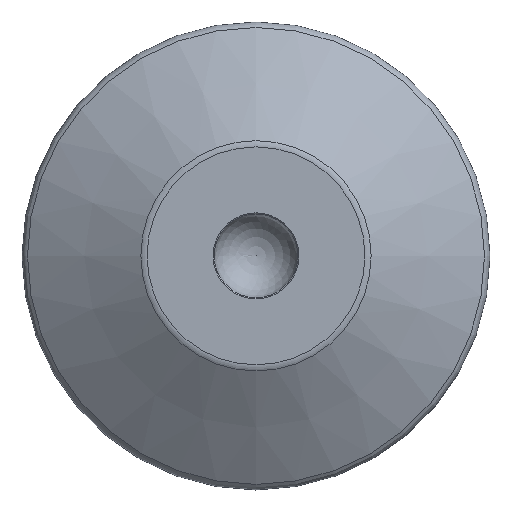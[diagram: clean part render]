
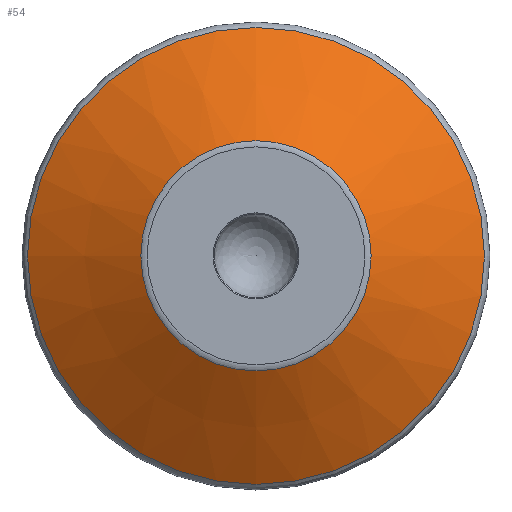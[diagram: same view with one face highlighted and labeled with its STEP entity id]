
A CAD part, top view. The second image highlights one B-rep face of the part: STEP entity #54.
In plain terms, the highlighted conical face has half-angle 58 degrees and reference radius 29.371 mm.
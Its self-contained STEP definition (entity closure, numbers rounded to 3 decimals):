
#54=ADVANCED_FACE('',(#250,#252),#254,.T.);
#250=FACE_OUTER_BOUND('',#251,.T.);
#251=EDGE_LOOP('',(#1328));
#252=FACE_OUTER_BOUND('',#253,.T.);
#253=EDGE_LOOP('',(#1329));
#254=CONICAL_SURFACE('',#255,29.371,1.012);
#255=AXIS2_PLACEMENT_3D('',#256,#257,#258);
#256=CARTESIAN_POINT('',(0.,0.,11.642));
#257=DIRECTION('',(0.,0.,-1.));
#258=DIRECTION('',(1.,0.,0.));
#1328=ORIENTED_EDGE('',*,*,#2016,.F.);
#1329=ORIENTED_EDGE('',*,*,#2017,.T.);
#2016=EDGE_CURVE('',#2369,#2369,#2370,.T.);
#2017=EDGE_CURVE('',#2371,#2371,#2372,.T.);
#2369=VERTEX_POINT('',#2977);
#2370=CIRCLE('',#2978,19.682);
#2371=VERTEX_POINT('',#2982);
#2372=CIRCLE('',#2983,39.06);
#2977=CARTESIAN_POINT('',(-19.682,0.,17.696));
#2978=AXIS2_PLACEMENT_3D('',#2979,#2980,#2981);
#2979=CARTESIAN_POINT('',(0.,0.,17.696));
#2980=DIRECTION('',(0.,0.,1.));
#2981=DIRECTION('',(-1.,0.,0.));
#2982=CARTESIAN_POINT('',(-39.06,0.,5.587));
#2983=AXIS2_PLACEMENT_3D('',#2984,#2985,#2986);
#2984=CARTESIAN_POINT('',(0.,0.,5.587));
#2985=DIRECTION('',(0.,0.,1.));
#2986=DIRECTION('',(-1.,0.,0.));
